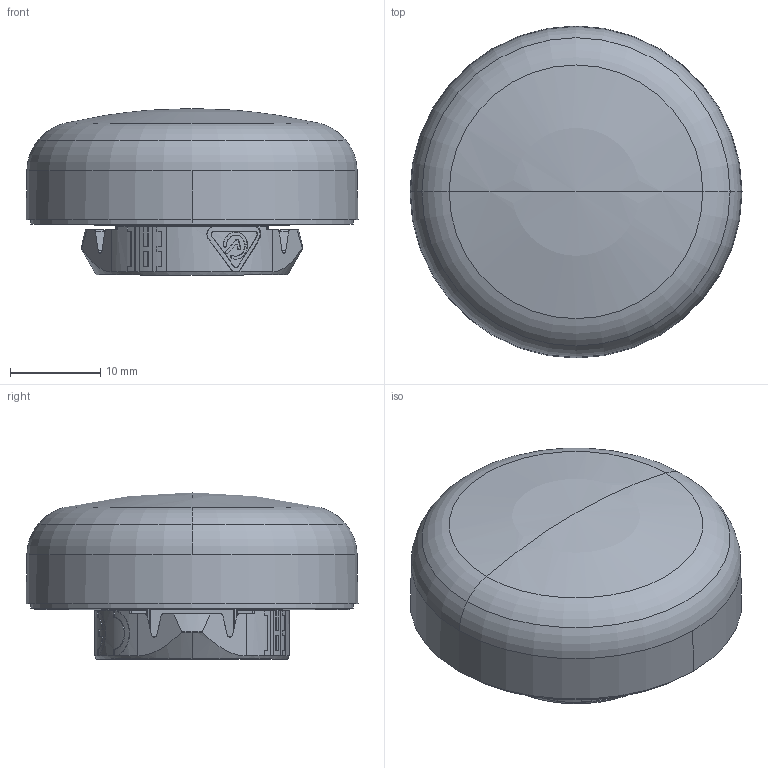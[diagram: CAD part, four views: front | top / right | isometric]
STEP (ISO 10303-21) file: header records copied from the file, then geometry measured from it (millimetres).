
FILE_DESCRIPTION((''),'2;1');
FILE_NAME('15015090Z','2022-06-21T13:34:18',('Ennio'),(''),'CREO PARAMETRIC BY PTC INC, 2021184','CREO PARAMETRIC BY PTC INC, 2021184','');
FILE_SCHEMA(('CONFIG_CONTROL_DESIGN'));
Length unit declared in the file: millimetre
Products named in the file (1): 15015090Z
Bounding box: 36.8 x 36.8 x 18.5 mm (x, y, z)
Volume: 13599.3 mm3; surface area: 3930.8 mm2
Topology: 1 solids, 1 shells, 342 faces, 991 edges, 661 vertices
Faces by surface type: plane 158, cylinder 69, bspline 55, cone 48, torus 10, sphere 2
Entity records: 13341 total; most frequent: CARTESIAN_POINT 4691, ORIENTED_EDGE 1978, DIRECTION 1569, EDGE_CURVE 989, VERTEX_POINT 661, AXIS2_PLACEMENT_3D 551, VECTOR 467, LINE 467
